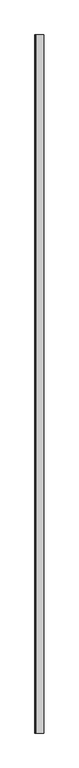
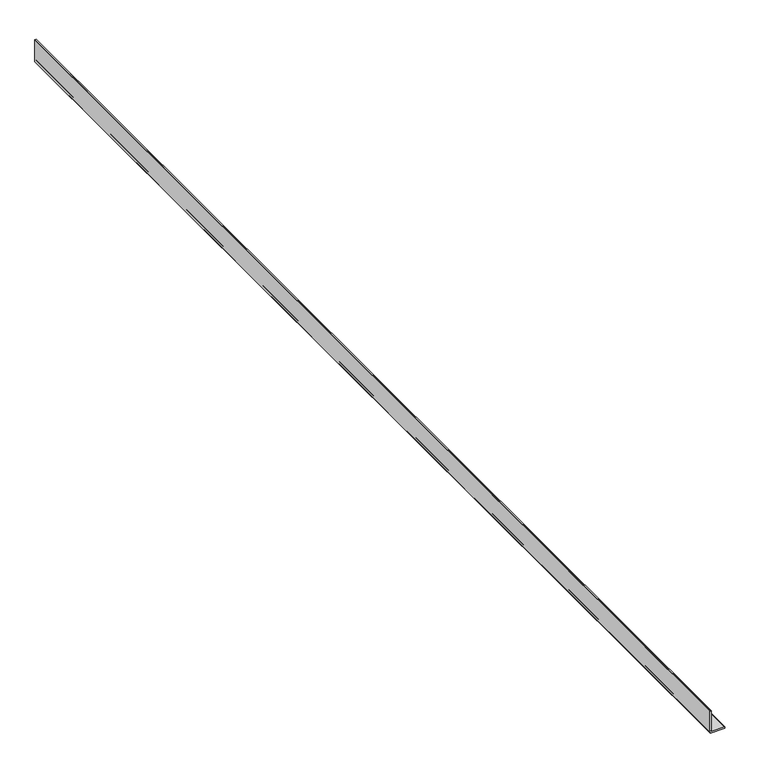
"""IFC4 building model written with IfcOpenShell, lengths in millimetres: proxy geometry, Cable_Tray_Divider_Profile_PSEFV_Fibertrav : Fibertrav PSEFV 4."""

from ifc_helpers import new_model, si_unit, point, frame, frame_2d, origin, place, context, project, spatial, polyline, circle_curve, trimmed, segment, composite_curve, outline, extrude, source, transform, mapped, element, save


def generic_models_a3b5af0d(model_context):
    return source(origin(), model_context, "Body", "SweptSolid", [
        extrude(outline(composite_curve([segment(polyline([(0.0, -15.5), (0.0, 15.5)]), True, "CONTINUOUS"), segment(trimmed(circle_curve(frame_2d((0.5, 15.5)), 0.5), [point((0.0, 15.5))], [point((0.5, 16.0))], False, "CARTESIAN"), True, "CONTINUOUS"), segment(polyline([(0.5, 16.0), (2.5, 16.0)]), True, "CONTINUOUS"), segment(trimmed(circle_curve(frame_2d((2.5, 15.5)), 0.5), [point((2.5, 16.0))], [point((3.0, 15.5))], False, "CARTESIAN"), True, "CONTINUOUS"), segment(polyline([(3.0, 15.5), (3.0, -12.5)]), True, "CONTINUOUS"), segment(trimmed(circle_curve(frame_2d((3.5, -12.5)), 0.5), [point((3.0, -12.5))], [point((3.5, -13.0))], True, "CARTESIAN"), True, "CONTINUOUS"), segment(polyline([(3.5, -13.0), (50.3, -13.0)]), True, "CONTINUOUS"), segment(trimmed(circle_curve(frame_2d((50.3, -13.5)), 0.5), [point((50.3, -13.0))], [point((50.8, -13.5))], False, "CARTESIAN"), True, "CONTINUOUS"), segment(polyline([(50.8, -13.5), (50.8, -15.5)]), True, "CONTINUOUS"), segment(trimmed(circle_curve(frame_2d((50.3, -15.5)), 0.5), [point((50.8, -15.5))], [point((50.3, -16.0))], False, "CARTESIAN"), True, "CONTINUOUS"), segment(polyline([(50.3, -16.0), (0.5, -16.0)]), True, "CONTINUOUS"), segment(trimmed(circle_curve(frame_2d((0.5, -15.5)), 0.5), [point((0.5, -16.0))], [point((0.0, -15.5))], False, "CARTESIAN"), True, "CONTINUOUS")], self_intersect=False)), frame((0.0, 0.0, 0.0), z_axis=(0.0, 1.0, 0.0), x_axis=(0.0, 0.0, 1.0)), (0.0, 0.0, 1.0), 2540.0),
    ])


if __name__ == "__main__":
    model = new_model("IFC4")
    model_context = context("Model", 3, world=origin())
    ifc_project = project(units=[si_unit("LENGTHUNIT", "METRE", prefix="MILLI")], contexts=[model_context])
    site = spatial("IfcSite", under=ifc_project)
    building = spatial("IfcBuilding", under=site)
    placement = place(None, origin())
    generic_models_shape = generic_models_a3b5af0d(model_context)
    element("IfcBuildingElementProxy", 1, Name="Cable_Tray_Divider_Profile_PSEFV_Fibertrav : Fibertrav PSEFV 4", ObjectType="Cable_Tray_Divider_Profile_PSEFV_Fibertrav : Fibertrav PSEFV 4", at=placement, inside=building, context=model_context, shape_type="MappedRepresentation", body=[
        mapped(generic_models_shape, transform((0.0, 0.0, 0.0), x_axis=(1.0, 0.0, 0.0), y_axis=(0.0, 1.0, 0.0), z_axis=(0.0, 0.0, 1.0))),
    ])
    save(model, "model.ifc")
